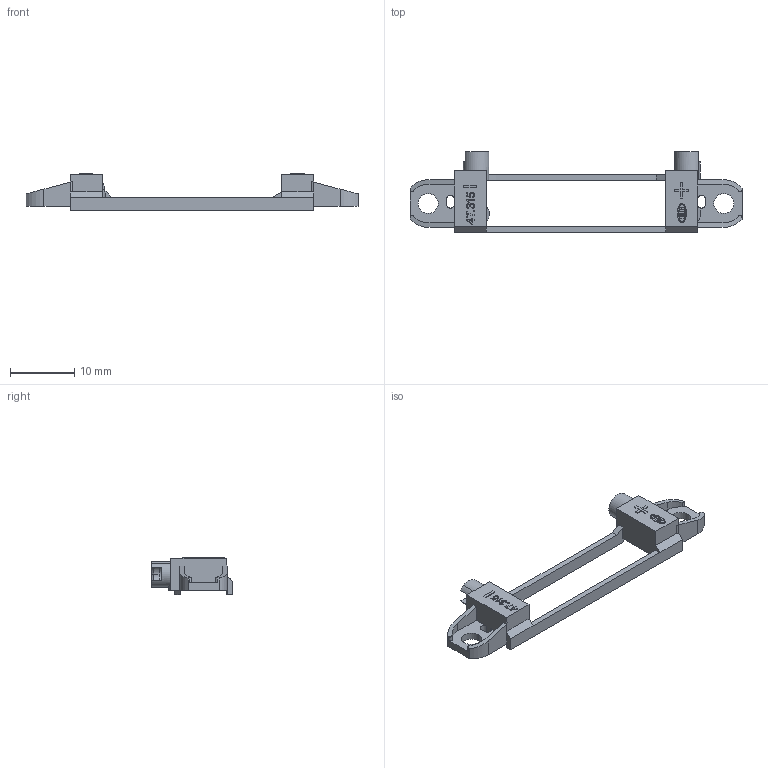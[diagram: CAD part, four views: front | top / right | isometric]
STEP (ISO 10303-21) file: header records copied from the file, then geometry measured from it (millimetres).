
FILE_DESCRIPTION((' '),'1');
FILE_NAME('01MYQ02Y07.stp','2011-06-29 T14:44:39',(''),(''),'STEP Interface v1.0 by CT CoreTechnologie','3D_Evolution v1.0 by CT CoreTechnologie','');
FILE_SCHEMA(('CONFIG_CONTROL_DESIGN'));
Length unit declared in the file: millimetre
Products named in the file (1): 01MYQ02Y07
Bounding box: 51.7 x 12.6 x 5.85 mm (x, y, z)
Volume: 590.3 mm3; surface area: 1636.7 mm2
Topology: 1 solids, 1 shells, 361 faces, 1029 edges, 678 vertices
Faces by surface type: plane 249, cylinder 100, bspline 12
Entity records: 15435 total; most frequent: CARTESIAN_POINT 2559, ORIENTED_EDGE 2058, DIRECTION 1955, EDGE_CURVE 1029, VECTOR 779, LINE 779, VERTEX_POINT 678, AXIS2_PLACEMENT_3D 588
